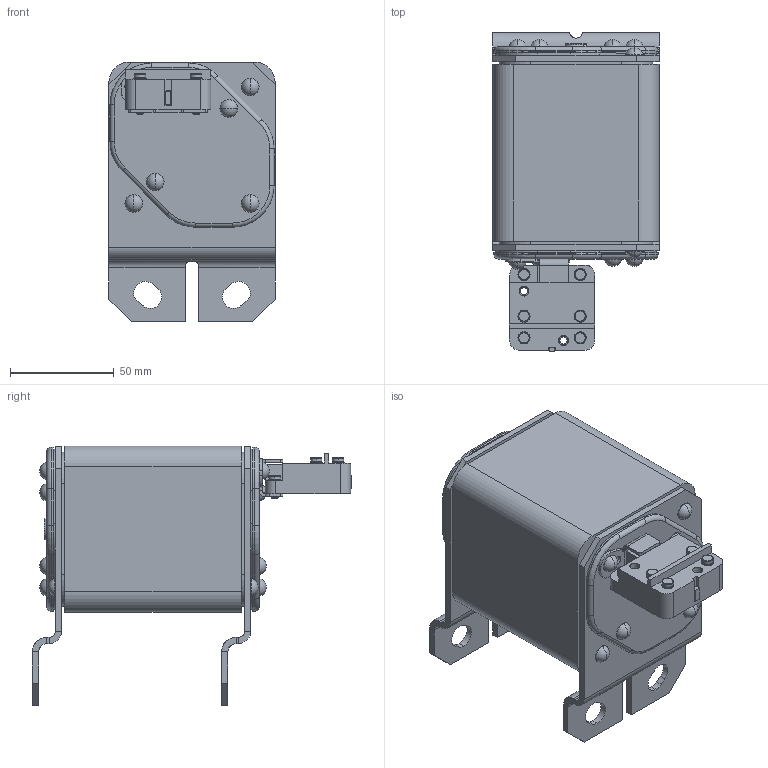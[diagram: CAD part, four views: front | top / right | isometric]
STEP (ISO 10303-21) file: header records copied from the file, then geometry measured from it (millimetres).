
FILE_DESCRIPTION (( 'STEP AP214' ), '1' );
FILE_NAME ('砎槼隰譇膻蠈錪 珫57-39681-XXXA-XXXX-忡曖.STEP', '2023-05-11T12:49:54', ( '' ), ( '' ), 'SwSTEP 2.0', 'SolidWorks 2018', '' );
FILE_SCHEMA (( 'AUTOMOTIVE_DESIGN' ));
Length unit declared in the file: millimetre
Products named in the file (1): 砎槼隰譇膻蠈錪 珫57-39681-XXXA-XXXX-忡曖
Bounding box: 80 x 153.5 x 125 mm (x, y, z)
Volume: 661333.1 mm3; surface area: 84316.6 mm2
Topology: 1 solids, 23 shells, 733 faces, 1711 edges, 1078 vertices
Faces by surface type: plane 302, cylinder 287, torus 80, cone 38, sphere 24, bspline 2
Entity records: 29579 total; most frequent: CARTESIAN_POINT 4021, DIRECTION 3961, ORIENTED_EDGE 3422, EDGE_CURVE 1711, AXIS2_PLACEMENT_3D 1558, VERTEX_POINT 1078, VECTOR 845, LINE 845
